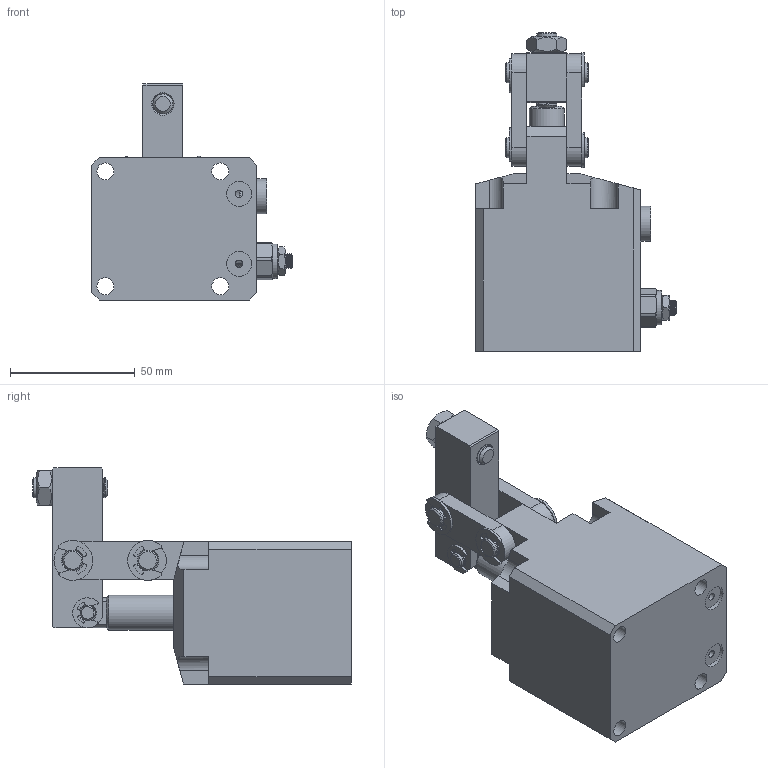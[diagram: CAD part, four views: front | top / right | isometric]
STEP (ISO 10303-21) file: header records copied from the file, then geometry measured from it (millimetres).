
FILE_DESCRIPTION(/* description */ ('STEP AP203'),/* implementation_level */ '2;1');
FILE_NAME(/* name */ 'D:\Vault_2016\Projekty\Clamptek\Hydraulic\CBLU\CBLU-35\STEP\CBLU-35CL.stp',/* time_stamp */ '2021-05-06T12:26:13+02:00',/* author */ ('user'),/* organization */ (''),/* preprocessor_version */ 'ST-DEVELOPER v18.1',/* originating_system */ 'Autodesk Inventor 2021',/* authorisation */ '');
FILE_SCHEMA (('AUTOMOTIVE_DESIGN { 1 0 10303 214 3 1 1 }'));
Length unit declared in the file: millimetre
Products named in the file (13): CBLU-35CL; ±¾ÌåCL_2; »îÈû¸Ë_2_1_3; Á¬¸Ë_2; 35Ñ¹±Û; ¶ÌÏúÖá_2; ³¤ÏúÖá_2; e rings gb_GB_CONNECTING_PIECE_RINGS_HR 6_2; e rings gb_GB_CONNECTING_PIECE_RINGS_HR 8_2; Áã¼þ2_3; CZL10µ÷ËÙ·§_2_1; ÂÝË¿2; M8ÂÝÄ¸2
Assembly tree (18 placements, depth 2):
  CBLU-35CL
    ±¾ÌåCL_2
    »îÈû¸Ë_2_1_3
    Á¬¸Ë_2  x2
    35Ñ¹±Û
    ¶ÌÏúÖá_2
    ³¤ÏúÖá_2  x2
    e rings gb_GB_CONNECTING_PIECE_RINGS_HR 6_2  x2
    e rings gb_GB_CONNECTING_PIECE_RINGS_HR 8_2  x4
    Áã¼þ2_3
    CZL10µ÷ËÙ·§_2_1
    ÂÝË¿2
    M8ÂÝÄ¸2
Bounding box: 80.3 x 127.5 x 86.5 mm (x, y, z)
Volume: 258795.1 mm3; surface area: 62970.8 mm2
Topology: 20 solids, 20 shells, 565 faces, 1476 edges, 967 vertices
Faces by surface type: cylinder 223, plane 210, cone 69, bspline 50, torus 13
Full cylindrical faces by diameter (mm): 1 x6, 1.6 x1, 2.5 x2, 3 x1, 3.3 x1, 3.8 x1, 4.917 x4, 5 x4, 5.6 x1, 6 x24, 6.1 x1, 6.8 x4, 7 x5, 8 x35, 8.7 x1, 8.8 x1, 9 x1, 10 x2, 12.6 x1, 12.7 x1, 13.8 x1, 14 x3, 35 x2
Entity records: 23157 total; most frequent: CARTESIAN_POINT 11760, ORIENTED_EDGE 2402, DIRECTION 2151, EDGE_CURVE 1201, AXIS2_PLACEMENT_3D 813, VERTEX_POINT 788, EDGE_LOOP 529, LINE 525
